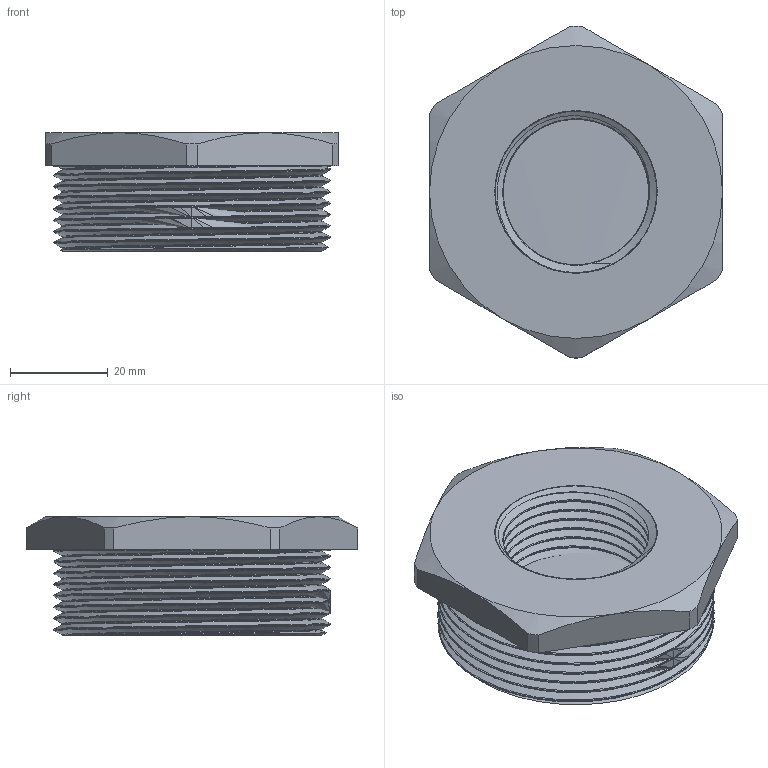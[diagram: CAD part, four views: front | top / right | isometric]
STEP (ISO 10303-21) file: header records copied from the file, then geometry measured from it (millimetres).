
FILE_DESCRIPTION(/* description */ (''),/* implementation_level */ '2;1');
FILE_NAME(/* name */ 'C:\Users\Doom\Desktop\Фадотех\Резьба\PF12 18.03.2020\PF12 18.03.2020.stp',/* time_stamp */ '2022-01-16T00:08:49+02:00',/* author */ ('Doom'),/* organization */ (''),/* preprocessor_version */ 'ST-DEVELOPER v18',/* originating_system */ 'Autodesk Inventor 2020',/* authorisation */ '');
FILE_SCHEMA (('AUTOMOTIVE_DESIGN { 1 0 10303 214 3 1 1 }'));
Length unit declared in the file: millimetre
Products named in the file (1): PF12 18.03.2020
Bounding box: 60 x 68 x 24.3 mm (x, y, z)
Volume: 52057.9 mm3; surface area: 27855.4 mm2
Topology: 3 solids, 3 shells, 68 faces, 177 edges, 117 vertices
Faces by surface type: cylinder 33, plane 14, bspline 12, cone 9
Full cylindrical faces by diameter (mm): 29.816 x10, 33.24 x2, 53.176 x2, 56.6 x9
Entity records: 12033 total; most frequent: CARTESIAN_POINT 10492, ORIENTED_EDGE 354, DIRECTION 245, EDGE_CURVE 177, VERTEX_POINT 117, AXIS2_PLACEMENT_3D 101, B_SPLINE_CURVE_WITH_KNOTS 78, EDGE_LOOP 76
